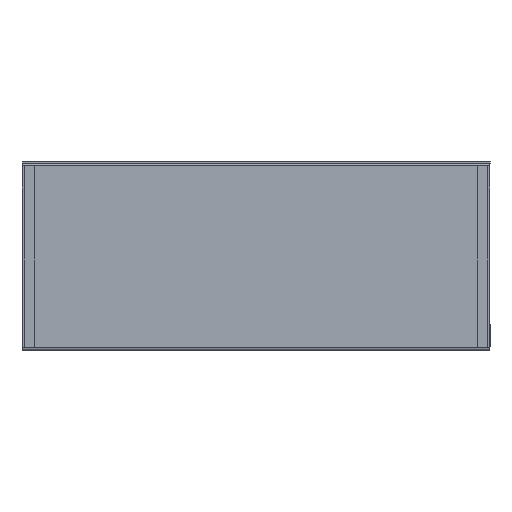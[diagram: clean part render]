
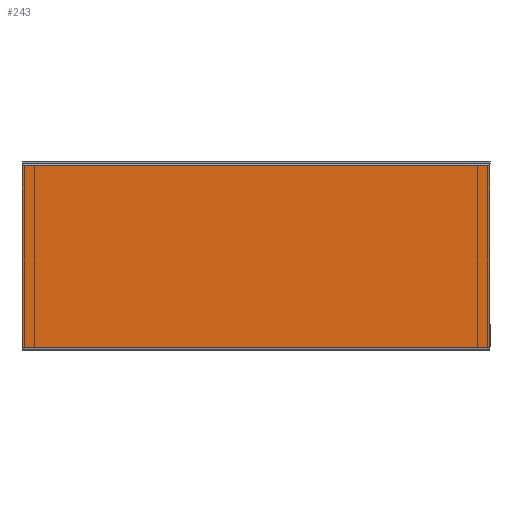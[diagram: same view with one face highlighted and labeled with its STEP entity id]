
A CAD part, left-side view. The second image highlights one B-rep face of the part: STEP entity #243.
In plain terms, the highlighted planar face has unit normal (-1, 0, 0).
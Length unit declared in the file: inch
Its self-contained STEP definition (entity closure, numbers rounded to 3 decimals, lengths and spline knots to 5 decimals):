
#73 = VERTEX_POINT ( 'NONE', #1113 ) ;
#79 = VERTEX_POINT ( 'NONE', #1105 ) ;
#94 = EDGE_CURVE ( 'NONE', #2602, #79, #1056, .T. ) ;
#127 = EDGE_CURVE ( 'NONE', #130, #73, #1133, .T. ) ;
#130 = VERTEX_POINT ( 'NONE', #1125 ) ;
#240 = EDGE_CURVE ( 'NONE', #2602, #130, #1451, .T. ) ;
#243 = ADVANCED_FACE ( 'NONE', ( #1445 ), #1447, .F. ) ;
#244 = EDGE_LOOP ( 'NONE', ( #245, #246, #248, #249 ) ) ;
#245 = ORIENTED_EDGE ( 'NONE', *, *, #127, .T. ) ;
#246 = ORIENTED_EDGE ( 'NONE', *, *, #247, .F. ) ;
#247 = EDGE_CURVE ( 'NONE', #79, #73, #1427, .T. ) ;
#248 = ORIENTED_EDGE ( 'NONE', *, *, #94, .F. ) ;
#249 = ORIENTED_EDGE ( 'NONE', *, *, #240, .T. ) ;
#1053 = DIRECTION ( 'NONE',  ( 0., 0., 1. ) ) ;
#1054 = VECTOR ( 'NONE', #1053, 39.37008 ) ;
#1055 = CARTESIAN_POINT ( 'NONE',  ( -15., 15., 0. ) ) ;
#1056 = LINE ( 'NONE', #1055, #1054 ) ;
#1105 = CARTESIAN_POINT ( 'NONE',  ( -15., 15., 11.823 ) ) ;
#1113 = CARTESIAN_POINT ( 'NONE',  ( -15., -15., 11.823 ) ) ;
#1125 = CARTESIAN_POINT ( 'NONE',  ( -15., -15., 0.177 ) ) ;
#1130 = DIRECTION ( 'NONE',  ( 0., 0., 1. ) ) ;
#1131 = VECTOR ( 'NONE', #1130, 39.37008 ) ;
#1132 = CARTESIAN_POINT ( 'NONE',  ( -15., -15., 0. ) ) ;
#1133 = LINE ( 'NONE', #1132, #1131 ) ;
#1421 = DIRECTION ( 'NONE',  ( 0., -1., 0. ) ) ;
#1422 = VECTOR ( 'NONE', #1421, 39.37008 ) ;
#1423 = CARTESIAN_POINT ( 'NONE',  ( -15., 15., 11.823 ) ) ;
#1424 = DIRECTION ( 'NONE',  ( 0., 0., -1. ) ) ;
#1425 = DIRECTION ( 'NONE',  ( 1., 0., 0. ) ) ;
#1426 = CARTESIAN_POINT ( 'NONE',  ( -15., 15., 0. ) ) ;
#1427 = LINE ( 'NONE', #1423, #1422 ) ;
#1445 = FACE_OUTER_BOUND ( 'NONE', #244, .T. ) ;
#1446 = AXIS2_PLACEMENT_3D ( 'NONE', #1426, #1425, #1424 ) ;
#1447 = PLANE ( 'NONE',  #1446 ) ;
#1448 = DIRECTION ( 'NONE',  ( 0., -1., 0. ) ) ;
#1449 = VECTOR ( 'NONE', #1448, 39.37008 ) ;
#1450 = CARTESIAN_POINT ( 'NONE',  ( -15., 15., 0.177 ) ) ;
#1451 = LINE ( 'NONE', #1450, #1449 ) ;
#2602 = VERTEX_POINT ( 'NONE', #4991 ) ;
#4991 = CARTESIAN_POINT ( 'NONE',  ( -15., 15., 0.177 ) ) ;
